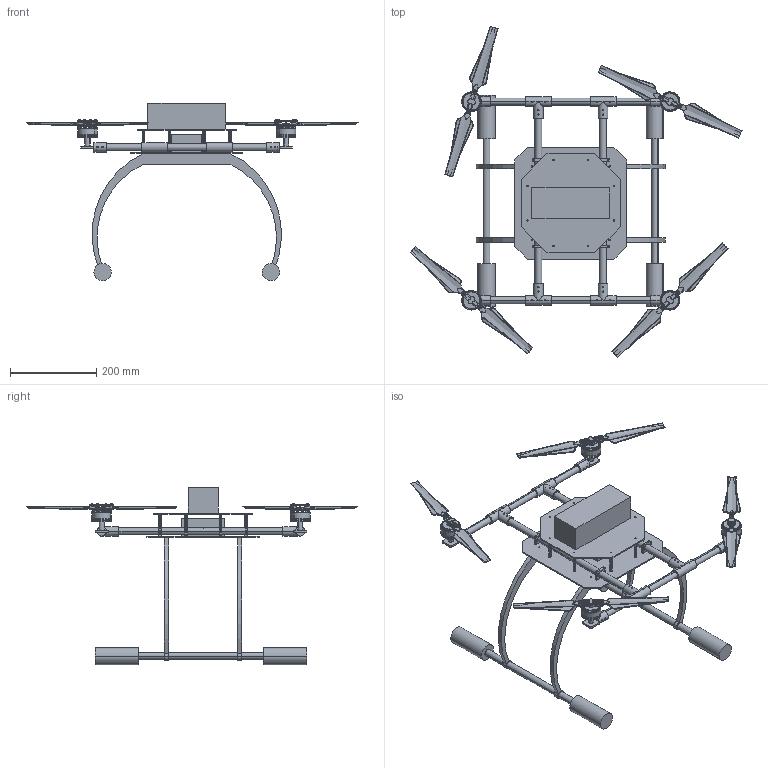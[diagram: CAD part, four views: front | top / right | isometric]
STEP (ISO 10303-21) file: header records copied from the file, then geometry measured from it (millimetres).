
FILE_DESCRIPTION (( 'STEP AP214' ), '1' );
FILE_NAME ('滄儂軞傖.STEP', '2023-06-06T04:41:26', ( '' ), ( '' ), 'SwSTEP 2.0', 'SolidWorks 2022', '' );
FILE_SCHEMA (( 'AUTOMOTIVE_DESIGN' ));
Length unit declared in the file: millimetre
Products named in the file (18): S1012102; 萇儂樓蔑; 滄儂軞傖; S1012101_MODEL; 奻脯抯啣; れ邈殤; 奪標; S10125001; 笢脯抯啣; 盓傅抯裝; din920-m3x12-5_8_par; れ邈殤抯裝; 碳管三通; 萇儂嘐隅奪標; 50mm蹟翐; Tapa motor; 萇儂嘐隅抯裝
Assembly tree (46 placements, depth 4):
  滄儂軞傖
    笢脯抯啣
    盓傅抯裝  x2
    萇儂嘐隅奪標  x4
    萇儂嘐隅抯裝  x2
    碳管三通  x4
    奪標  x8
    50mm蹟翐  x8
    奻脯抯啣
    れ邈殤  x2
    れ邈殤抯裝  x2
    萇儂樓蔑  x4
      S1012101_MODEL
        S1012101_MODEL
        Tapa motor
      S10125001
      S1012102
      din920-m3x12-5_8_par
Bounding box: 769.04 x 767.3 x 411 mm (x, y, z)
Volume: 2555567.5 mm3; surface area: 910958 mm2
Topology: 70 solids, 92 shells, 3086 faces, 8064 edges, 5000 vertices
Faces by surface type: cylinder 1544, bspline 776, plane 710, cone 56
Entity records: 42957 total; most frequent: CARTESIAN_POINT 16907, ORIENTED_EDGE 4220, DIRECTION 3855, EDGE_CURVE 2114, AXIS2_PLACEMENT_3D 1533, VERTEX_POINT 1318, EDGE_LOOP 990, CIRCLE 855
